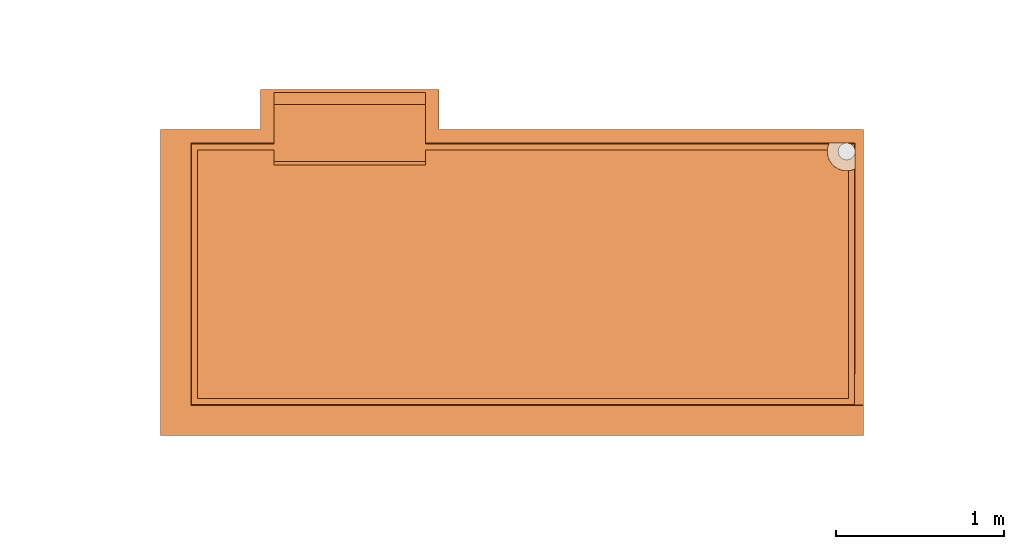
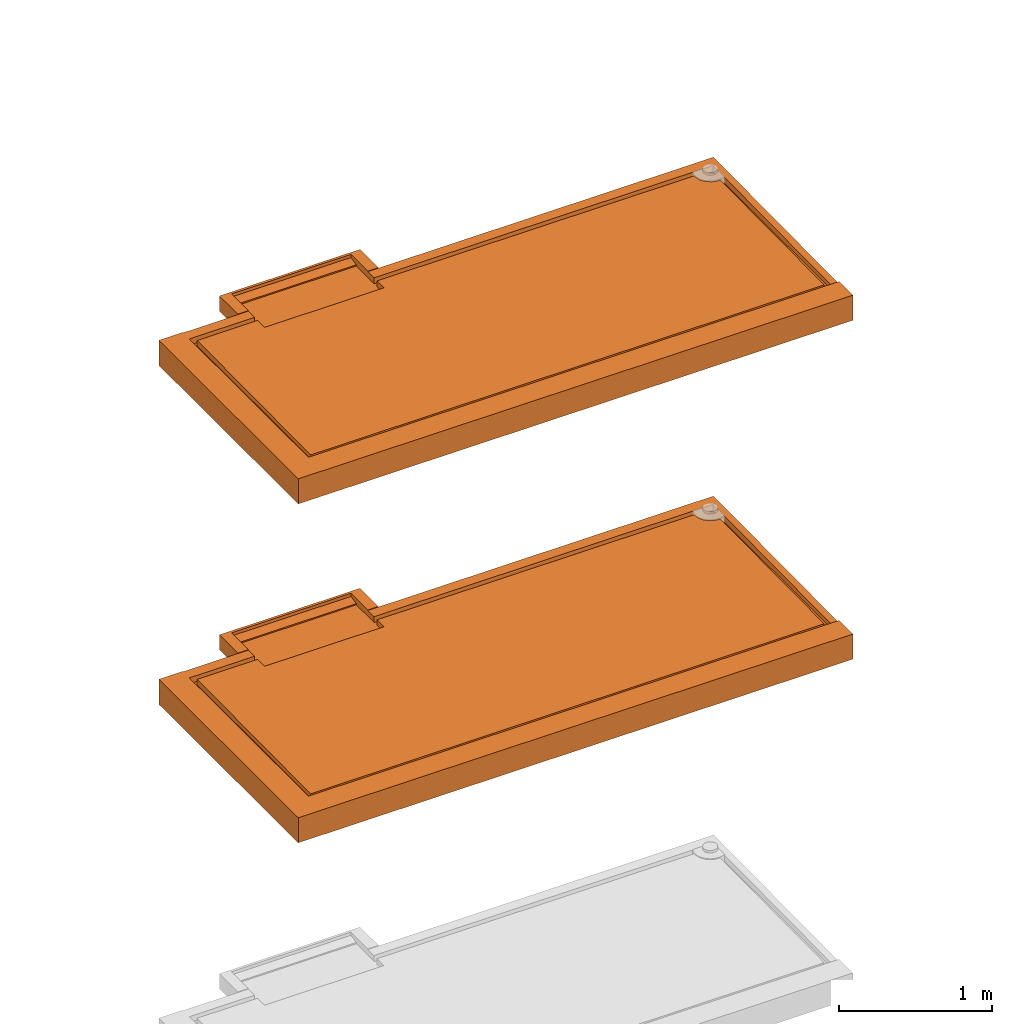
# One storey, part 17 of 31: 2 proxies, 2 elements without a shape of their own.
"""IFC2X3 building model written with IfcOpenShell, lengths in centimetres."""

import ifcopenshell
import ifcopenshell.guid

model = None  # the IFC model being written
_history = None  # IfcOwnerHistory: only IFC2X3 demands one
_inside = {}  # id of a spatial element -> (the spatial element, [elements in it])
_under = {}  # id of a project, library or spatial element -> (it, [spatial elements below it])
_declared = {}  # id of a project -> (the project, [libraries it declares])
_typed = {}  # id of a type object -> (the type object, [elements of that type])
_made_of = {}  # id of a material, layer set ... -> (it, [elements and type objects made of it])


def new_model(schema):
    """Start an empty IFC model of exactly this schema.

    Asked for "IFC4X3", IfcOpenShell would pick the latest addendum, in which some entities
    have other attributes; the version numbers below select the first issue.
    IFC2X3 requires an IfcOwnerHistory on every rooted entity: one is made here for all.
    """
    global model, _history
    if schema == "IFC4X3":
        model = ifcopenshell.file(schema_version=(4, 3, 0, 0))
    else:
        model = ifcopenshell.file(schema=schema)
    _inside.clear()
    _under.clear()
    _declared.clear()
    _typed.clear()
    _made_of.clear()
    _history = None
    if model.schema == "IFC2X3":
        org = make("IfcOrganization", Name="unknown")
        user = make(
            "IfcPersonAndOrganization",
            ThePerson=make("IfcPerson", FamilyName="unknown"),
            TheOrganization=org,
        )
        app = make(
            "IfcApplication",
            ApplicationDeveloper=org,
            Version="unknown",
            ApplicationFullName="unknown",
            ApplicationIdentifier="unknown",
        )
        _history = make(
            "IfcOwnerHistory",
            OwningUser=user,
            OwningApplication=app,
            ChangeAction="ADDED",
            CreationDate=0,
        )
    return model


def make(cls, **values):
    """One entity of the class cls with the attributes given. An attribute that is None is left unset."""
    return model.create_entity(
        cls, **{name: value for name, value in values.items() if value is not None}
    )


def entity(cls, *values):
    """Any entity or typed value of the class cls, its attributes in the order of the schema. None: left unset."""
    e = model.create_entity(cls)
    for i, value in enumerate(values):
        if value is not None:
            e[i] = value
    return e


def rooted(cls, **values):
    """An entity with a GlobalId (a new one), such as an element, a storey or a relation."""
    return make(cls, GlobalId=ifcopenshell.guid.new(), OwnerHistory=_history, **values)


def si_unit(unit_type, name, prefix=None):
    """IfcSIUnit, for example si_unit("LENGTHUNIT", "METRE", prefix="MILLI")."""
    return make("IfcSIUnit", UnitType=unit_type, Prefix=prefix, Name=name)


def converted_unit(unit_type, name, factor, base, dimensions=None, offset=None):
    """IfcConversionBasedUnit, such as the inch: factor (a typed value) times the base unit."""
    return make(
        "IfcConversionBasedUnit"
        if offset is None
        else "IfcConversionBasedUnitWithOffset",
        ConversionOffset=offset,
        Dimensions=None
        if dimensions is None
        else entity("IfcDimensionalExponents", *dimensions),
        UnitType=unit_type,
        Name=name,
        ConversionFactor=make(
            "IfcMeasureWithUnit", ValueComponent=factor, UnitComponent=base
        ),
    )


def derived_unit(unit_type, elements):
    """IfcDerivedUnit: a product of units, each with its exponent."""
    return make(
        "IfcDerivedUnit",
        Elements=[
            make("IfcDerivedUnitElement", Unit=unit, Exponent=power)
            for unit, power in elements
        ],
        UnitType=unit_type,
    )


def assignment(units):
    """IfcUnitAssignment: the units of a project."""
    return None if units is None else make("IfcUnitAssignment", Units=units)


def point(xyz):
    """IfcCartesianPoint."""
    return None if xyz is None else make("IfcCartesianPoint", Coordinates=xyz)


def direction(xyz):
    """IfcDirection."""
    return None if xyz is None else make("IfcDirection", DirectionRatios=xyz)


def frame(location, z_axis=None, x_axis=None):
    """IfcAxis2Placement3D, a coordinate frame: its origin and axes. An axis left out is left unset."""
    return make(
        "IfcAxis2Placement3D",
        Location=point(location),
        Axis=direction(z_axis),
        RefDirection=direction(x_axis),
    )


def origin():
    """The frame at (0, 0, 0) with its axes left unset."""
    return frame((0.0, 0.0, 0.0))


def place(relative_to, where):
    """IfcLocalPlacement: puts the frame where relative to a parent placement (None: the world)."""
    return make(
        "IfcLocalPlacement", PlacementRelTo=relative_to, RelativePlacement=where
    )


def context(
    kind, dimensions, precision=None, world=None, true_north=None, identifier=None
):
    """IfcGeometricRepresentationContext, for example the 3D "Model" context."""
    return make(
        "IfcGeometricRepresentationContext",
        ContextIdentifier=identifier,
        ContextType=kind,
        CoordinateSpaceDimension=dimensions,
        Precision=precision,
        WorldCoordinateSystem=world,
        TrueNorth=true_north,
    )


def subcontext(parent, identifier, kind, view, scale=None):
    """IfcGeometricRepresentationSubContext, for example "Body" below "Model"."""
    return make(
        "IfcGeometricRepresentationSubContext",
        ContextIdentifier=identifier,
        ContextType=kind,
        ParentContext=parent,
        TargetScale=scale,
        TargetView=view,
    )


def project(units=None, contexts=None):
    """IfcProject with its units and contexts."""
    return rooted(
        "IfcProject",
        Name="project",
        RepresentationContexts=contexts,
        UnitsInContext=assignment(units),
    )


def spatial(cls, under=None, at=None, **own):
    """A site, building, storey or space (cls), placed at a placement, below another one or the project."""
    s = rooted(cls, ObjectPlacement=at, **own)
    if under is not None:
        _under.setdefault(under.id(), (under, []))[1].append(s)
    return s


def faces_of(points, faces, orient=None, outer=None):
    """IfcFace entities. A face is a list of loops; a loop is a list of indices into points, from 0.

    orient and outer hold one flag for each loop. By default every Orientation is true, the
    first loop of a face is its IfcFaceOuterBound and the others are IfcFaceBound.
    """
    made = []
    for i, loops in enumerate(faces):
        bounds = []
        for j, loop in enumerate(loops):
            is_outer = j == 0 if outer is None else outer[i][j]
            bounds.append(
                make(
                    "IfcFaceOuterBound" if is_outer else "IfcFaceBound",
                    Bound=make("IfcPolyLoop", Polygon=[points[k] for k in loop]),
                    Orientation=True if orient is None else orient[i][j],
                )
            )
        made.append(make("IfcFace", Bounds=bounds))
    return made


def faceted_brep(points, faces, orient=None, outer=None, voids=None):
    """IfcFacetedBrep: a solid bounded by flat faces; with voids (closed shells), ...WithVoids."""
    shared = [point(p) for p in points]
    hull = make("IfcClosedShell", CfsFaces=faces_of(shared, faces, orient, outer))
    if voids is None:
        return make("IfcFacetedBrep", Outer=hull)
    return make(
        "IfcFacetedBrepWithVoids",
        Outer=hull,
        Voids=[
            make(cls, CfsFaces=faces_of(shared, fs, o, b)) for cls, fs, o, b in voids
        ],
    )


def shape(context_of_items, identifier, shape_type, items):
    """IfcShapeRepresentation: the items that make up one representation, for example the "Body"."""
    return make(
        "IfcShapeRepresentation",
        ContextOfItems=context_of_items,
        RepresentationIdentifier=identifier,
        RepresentationType=shape_type,
        Items=items,
    )


def source(mapping_origin, context_of_items, identifier, shape_type, items):
    """IfcRepresentationMap: a shape defined once, which mapped items show again and again."""
    return make(
        "IfcRepresentationMap",
        MappingOrigin=mapping_origin,
        MappedRepresentation=shape(context_of_items, identifier, shape_type, items),
    )


def transform(
    local_origin,
    x_axis=None,
    y_axis=None,
    z_axis=None,
    scale=None,
    scale2=None,
    scale3=None,
    uniform=True,
):
    """IfcCartesianTransformationOperator3D, or its non-uniform kind. x_axis, y_axis, z_axis: its Axis1, 2, 3."""
    if uniform:
        return make(
            "IfcCartesianTransformationOperator3D",
            Axis1=direction(x_axis),
            Axis2=direction(y_axis),
            LocalOrigin=point(local_origin),
            Scale=scale,
            Axis3=direction(z_axis),
        )
    return make(
        "IfcCartesianTransformationOperator3DnonUniform",
        Axis1=direction(x_axis),
        Axis2=direction(y_axis),
        LocalOrigin=point(local_origin),
        Scale=scale,
        Axis3=direction(z_axis),
        Scale2=scale2,
        Scale3=scale3,
    )


def mapped(mapping_source, mapping_target):
    """IfcMappedItem: shows the shape of a source again, moved by a transform."""
    return make(
        "IfcMappedItem", MappingSource=mapping_source, MappingTarget=mapping_target
    )


def material(Name=None, Category=None):
    """IfcMaterial."""
    return make("IfcMaterial", Name=Name, Category=Category)


def made_of(thing, what):
    """Note that an element or type object is made of a material, layer set ...; save() writes the relation."""
    if what is not None:
        _made_of.setdefault(what.id(), (what, []))[1].append(thing)
    return thing


def type_object(cls, material=None, **own):
    """A type object (cls), such as IfcWallType, which elements share."""
    return made_of(rooted(cls, **own), material)


def type_shapes(of_type, sources):
    """Give a type object the sources (RepresentationMaps) that its elements show as mapped items."""
    of_type.RepresentationMaps = sources


def element(
    cls,
    number,
    at=None,
    inside=None,
    cuts=None,
    type_object=None,
    material=None,
    context=None,
    identifier="Body",
    shape_type=None,
    held_by="IfcProductDefinitionShape",
    body=None,
    shapes=None,
    **own,
):
    """One element of the class cls, such as IfcWall. Its Tag is "e" and its number.

    at: its placement. inside: the storey or other place that contains it. cuts: it is an
    opening in that element (IfcRelVoidsElement). A single representation is given by context,
    identifier, shape_type and body (its items); several are given by shapes. held_by: the class
    of the entity that holds the representations. save() writes the other relations.
    """
    e = rooted(cls, Tag="e%d" % number, ObjectPlacement=at, **own)
    if body is not None:
        shapes = [shape(context, identifier, shape_type, body)]
    if shapes is not None:
        e.Representation = make(held_by, Representations=shapes)
    if inside is not None:
        _inside.setdefault(inside.id(), (inside, []))[1].append(e)
    if cuts is not None:
        rooted(
            "IfcRelVoidsElement", RelatingBuildingElement=cuts, RelatedOpeningElement=e
        )
    if type_object is not None:
        _typed.setdefault(type_object.id(), (type_object, []))[1].append(e)
    return made_of(e, material)


def aggregate(whole, parts):
    """IfcRelAggregates: a whole, such as a stair, and the parts it consists of."""
    return rooted("IfcRelAggregates", RelatingObject=whole, RelatedObjects=parts)


def save(model, path):
    """Write the relations noted so far, then the file.

    IfcRelAggregates (storeys below a building ...), IfcRelContainedInSpatialStructure (elements
    in a storey), IfcRelDefinesByType, IfcRelAssociatesMaterial and IfcRelDeclares: one each for
    every whole, place, type object, material and project.
    """
    for whole, parts in _under.values():
        aggregate(whole, parts)
    for where, things in _inside.values():
        rooted(
            "IfcRelContainedInSpatialStructure",
            RelatedElements=things,
            RelatingStructure=where,
        )
    for kind, things in _typed.values():
        rooted("IfcRelDefinesByType", RelatedObjects=things, RelatingType=kind)
    for what, things in _made_of.values():
        rooted("IfcRelAssociatesMaterial", RelatedObjects=things, RelatingMaterial=what)
    for by, libraries in _declared.values():
        rooted("IfcRelDeclares", RelatingContext=by, RelatedDefinitions=libraries)
    model.write(path)


model = new_model("IFC2X3")

# Units and contexts
model_context = context("Model", 3, precision=0.001, world=origin(), true_north=direction((6.12303176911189e-17, 1.0)))
body_context = subcontext(model_context, "Body", "Model", "MODEL_VIEW")
ifc_project = project(units=[si_unit("LENGTHUNIT", "METRE", prefix="CENTI"), si_unit("AREAUNIT", "SQUARE_METRE"), si_unit("VOLUMEUNIT", "CUBIC_METRE"), converted_unit("PLANEANGLEUNIT", "DEGREE", entity("IfcRatioMeasure", 0.0174532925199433), si_unit("PLANEANGLEUNIT", "RADIAN"), dimensions=[0, 0, 0, 0, 0, 0, 0]), si_unit("MASSUNIT", "GRAM", prefix="KILO"), derived_unit("MASSDENSITYUNIT", [(si_unit("MASSUNIT", "GRAM", prefix="KILO"), 1), (si_unit("LENGTHUNIT", "METRE"), -3)]), si_unit("TIMEUNIT", "SECOND"), si_unit("FREQUENCYUNIT", "HERTZ"), si_unit("THERMODYNAMICTEMPERATUREUNIT", "DEGREE_CELSIUS"), derived_unit("THERMALTRANSMITTANCEUNIT", [(si_unit("MASSUNIT", "GRAM", prefix="KILO"), 1), (si_unit("THERMODYNAMICTEMPERATUREUNIT", "KELVIN"), -1), (si_unit("TIMEUNIT", "SECOND"), -3)]), derived_unit("VOLUMETRICFLOWRATEUNIT", [(si_unit("LENGTHUNIT", "METRE"), 3), (si_unit("TIMEUNIT", "SECOND"), -1)]), si_unit("ELECTRICCURRENTUNIT", "AMPERE"), si_unit("ELECTRICVOLTAGEUNIT", "VOLT"), si_unit("POWERUNIT", "WATT"), si_unit("FORCEUNIT", "NEWTON"), si_unit("ILLUMINANCEUNIT", "LUX"), si_unit("LUMINOUSFLUXUNIT", "LUMEN"), si_unit("LUMINOUSINTENSITYUNIT", "CANDELA"), derived_unit("USERDEFINED", [(si_unit("MASSUNIT", "GRAM", prefix="KILO"), -1), (si_unit("LENGTHUNIT", "METRE"), -2), (si_unit("TIMEUNIT", "SECOND"), 3), (si_unit("LUMINOUSFLUXUNIT", "LUMEN"), 1)]), derived_unit("LINEARVELOCITYUNIT", [(si_unit("LENGTHUNIT", "METRE"), 1), (si_unit("TIMEUNIT", "SECOND"), -1)]), si_unit("PRESSUREUNIT", "PASCAL"), derived_unit("USERDEFINED", [(si_unit("LENGTHUNIT", "METRE"), -2), (si_unit("MASSUNIT", "GRAM", prefix="KILO"), 1), (si_unit("TIMEUNIT", "SECOND"), -2)])], contexts=[model_context])

# Site, building, storey
site_placement = place(None, origin())
site = spatial("IfcSite", under=ifc_project, at=site_placement, Name="Default", CompositionType="ELEMENT")
building_placement = place(site_placement, origin())
building = spatial("IfcBuilding", under=site, at=building_placement, Name="CAGE 03", CompositionType="ELEMENT")
storey_placement = place(building_placement, frame((0.0, 0.0, -400.0)))
storey = spatial("IfcBuildingStorey", under=building, at=storey_placement, Name="±0.00", CompositionType="ELEMENT", Elevation=-400.0)

# Assembly, proxy
assembly_1_placement = place(storey_placement, origin())
assembly_1 = element("IfcElementAssembly", 1, at=assembly_1_placement, inside=storey, Name="Assemblage Modèles génériques:BALCON TYPE 05", ObjectType="Assemblage Modèles génériques:BALCON TYPE 05", AssemblyPlace="NOTDEFINED", PredefinedType="USERDEFINED")
ifc_material = material(Name="Béton, panneaux préfa 30/37")
building_element_proxy_type_1 = type_object("IfcBuildingElementProxyType", Name="balcon préfa type 05", PredefinedType="NOTDEFINED", material=ifc_material)
shared_shape_1 = source(origin(), body_context, "Body", "Brep", [
    faceted_brep([(18.4374433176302, 173.562556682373, 15.0), (18.4374433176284, 18.437443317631, 15.0), (412.562556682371, 18.4374433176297, 15.0), (412.562556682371, 158.443813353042, 15.0), (410.817467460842, 157.850476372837, 15.0), (409.0, 157.543560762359, 15.0), (409.0, 22.0, 15.0), (22.0, 22.0, 15.0), (22.0, 170.0, 15.0), (67.5000000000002, 170.0, 15.0), (67.5000000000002, 163.0, 15.0), (157.500000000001, 163.0, 15.0), (157.500000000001, 170.0, 15.0), (396.543560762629, 170.0, 15.0), (396.850476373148, 171.817467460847, 15.0), (397.443813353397, 173.562556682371, 15.0), (157.500000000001, 173.562556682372, 15.0), (157.500000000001, 197.0, 15.0), (67.5000000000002, 197.0, 15.0), (67.5000000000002, 173.562556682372, 15.0), (410.045257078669, 173.562556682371, 15.0), (411.081635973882, 172.937450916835, 15.0), (411.937450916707, 172.081635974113, 15.0), (412.562556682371, 171.045257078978, 15.0), (412.562556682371, 173.562556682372, 15.0), (59.5000000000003, 182.0, 20.0), (67.5000000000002, 182.0, 20.0), (67.5000000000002, 204.0, 20.0), (157.500000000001, 204.0, 20.0), (157.500000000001, 182.0, 20.0), (165.5, 182.0, 20.0), (165.5, 198.0, 20.0), (165.5, 206.0, 20.0), (59.5000000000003, 206.0, 20.0), (59.5000000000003, 198.0, 20.0), (18.0, 18.0, 20.0), (18.0, 180.0, 20.0), (18.0, 182.0, 20.0), (0.0, 182.0, 20.0), (0.0, 180.0, 20.0), (0.0, 0.0, 20.0), (418.0, 0.0, 20.0), (418.0, 18.0, 20.0), (59.5000000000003, 206.0, 8.0), (165.5, 206.0, 8.0), (0.0, 0.0, 0.0), (418.0, 0.0, 0.0), (67.5000000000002, 163.0, 16.9198129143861), (67.5000000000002, 161.026803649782, 16.9000788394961), (157.500000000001, 161.026803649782, 16.9000788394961), (157.500000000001, 163.0, 16.9198129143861), (418.0, 180.0, 0.0), (418.0, 182.0, 0.0), (418.0, 182.0, 19.6099582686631), (418.0, 180.0, 19.5899561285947), (418.0, 18.177465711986, 17.9715576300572), (412.822534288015, 18.177465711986, 17.9715576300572), (18.0411600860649, 173.958839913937, 19.5295380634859), (18.0358741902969, 180.0, 19.5899561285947), (18.0341242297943, 182.0, 19.6099582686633), (0.0, 182.0, 0.0), (0.0, 180.0, 0.0), (67.500000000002, 173.958839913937, 19.5295380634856), (397.487940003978, 173.662054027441, 16.13725985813), (397.532066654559, 173.761551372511, 17.2745197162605), (397.578068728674, 173.860195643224, 18.4020288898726), (397.601069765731, 173.90951777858, 18.9657834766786), (397.61257028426, 173.934178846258, 19.2476607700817), (397.624070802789, 173.958839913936, 19.5295380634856), (157.500000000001, 173.958839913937, 19.5295380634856), (412.958839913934, 173.958839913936, 19.5295380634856), (408.640239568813, 173.958839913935, 19.5295380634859), (409.001449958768, 173.898683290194, 18.841944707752), (409.357288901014, 173.812251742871, 17.8540276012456), (409.705847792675, 173.700008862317, 16.5710856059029), (4.0, 4.0, 1.46630765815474), (4.0, 4.0, 0.0), (414.0, 4.0, 0.0), (414.0, 4.0, 1.46630765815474), (165.5, 182.0, 19.6099582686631), (165.5, 182.0, 8.0), (165.5, 198.0, 8.0), (67.5000000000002, 204.0, 17.4999999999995), (157.500000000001, 204.0, 17.4999999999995), (59.5000000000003, 198.0, 8.0), (59.5000000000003, 182.0, 8.0), (59.5000000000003, 182.0, 19.6099582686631), (415.0, 182.0, 0.0), (415.0, 182.0, 1.0), (414.0, 182.0, 1.46630765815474), (414.0, 182.0, 0.0), (18.0, 182.0, 0.0), (4.0, 182.0, 0.0), (4.0, 182.0, 1.46630765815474), (3.0, 182.0, 1.0), (3.0, 182.0, 0.0), (67.5000000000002, 180.0, 19.5899561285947), (67.5000000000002, 182.0, 19.6099582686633), (22.0, 22.0, 18.0097870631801), (409.0, 22.0, 18.0097870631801), (409.0, 157.543560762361, 19.3653677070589), (406.142764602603, 157.650961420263, 19.3664418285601), (403.400338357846, 158.459928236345, 19.3745323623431), (400.942250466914, 159.920453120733, 19.3891391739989), (398.920453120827, 161.942250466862, 19.4093593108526), (397.459928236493, 164.400338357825, 19.4339428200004), (396.650961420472, 167.1427646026, 19.4613700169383), (396.543560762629, 170.0, 19.4899454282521), (157.500000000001, 170.0, 19.4899454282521), (157.500000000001, 161.001802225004, 19.399953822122), (67.5000000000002, 161.001802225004, 19.399953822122), (67.5000000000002, 170.0, 19.4899454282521), (22.0, 170.0, 19.4899454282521), (157.500000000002, 182.0, 19.6099582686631), (157.500000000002, 180.0, 19.5899561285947), (397.633936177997, 173.979429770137, 19.5297439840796), (397.643842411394, 174.0, 19.5299497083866), (408.0, 174.0, 19.5299497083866), (408.320780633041, 173.989699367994, 19.529846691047), (412.955086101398, 169.668671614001, 19.4866317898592), (412.98875888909, 169.335089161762, 19.4832956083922), (413.0, 169.0, 19.4799443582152), (413.0, 158.643842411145, 19.3763717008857), (412.972725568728, 158.630718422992, 19.3762404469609), (412.945416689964, 158.617666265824, 19.376109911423), (157.500000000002, 197.0, 15.9713250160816), (67.5000000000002, 197.0, 15.9713250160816), (415.0, 3.0, 1.0), (3.0, 3.0, 1.0), (4.0, 180.0, 0.0), (403.669872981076, 166.49999999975, 0.0), (403.170370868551, 167.705904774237, 0.0), (403.0, 169.0, 0.0), (403.170370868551, 170.294095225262, 0.0), (403.669872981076, 171.49999999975, 0.0), (404.464466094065, 172.535533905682, 0.0), (405.499999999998, 173.330127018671, 0.0), (406.705904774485, 173.829629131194, 0.0), (408.0, 174.0, 0.0), (414.0, 180.0, 0.0), (409.29409522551, 173.829629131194, 0.0), (410.499999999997, 173.330127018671, 0.0), (411.535533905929, 172.535533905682, 0.0), (412.330127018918, 171.49999999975, 0.0), (412.829629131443, 170.294095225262, 0.0), (413.0, 169.0, 0.0), (404.464466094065, 165.464466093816, 0.0), (405.499999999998, 164.669872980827, 0.0), (406.705904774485, 164.170370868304, 0.0), (412.829629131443, 167.705904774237, 0.0), (412.330127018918, 166.49999999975, 0.0), (411.535533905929, 165.464466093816, 0.0), (410.499999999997, 164.669872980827, 0.0), (409.29409522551, 164.170370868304, 0.0), (408.0, 164.0, 0.0), (3.0, 180.0, 0.0), (3.0, 3.0, 0.0), (415.0, 3.0, 0.0), (415.0, 180.0, 0.0), (415.0, 180.0, 1.0), (414.0, 180.0, 1.46630765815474), (3.0, 180.0, 1.0), (4.0, 180.0, 1.46630765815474), (412.697557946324, 170.712585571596, 16.5430715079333), (412.808339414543, 170.371084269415, 17.8093094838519), (412.894329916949, 170.022513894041, 18.7921854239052), (412.897757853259, 158.595497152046, 18.8313669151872), (412.850099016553, 158.573328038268, 18.2866239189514), (412.754781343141, 158.528989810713, 17.19713792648), (396.735578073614, 171.315771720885, 7.69999999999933), (396.511272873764, 168.490933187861, 7.69999999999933), (396.984546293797, 165.697004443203, 7.69999999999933), (398.126661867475, 163.103628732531, 7.69999999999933), (399.868272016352, 160.868272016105, 7.69999999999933), (402.103628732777, 159.126661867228, 7.69999999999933), (404.697004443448, 157.98454629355, 7.69999999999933), (407.490933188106, 157.511272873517, 7.69999999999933), (410.315771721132, 157.735578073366, 7.69999999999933), (413.0, 158.643842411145, 7.69999999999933), (413.0, 169.0, 7.69999999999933), (412.829629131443, 167.705904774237, 7.69999999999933), (412.330127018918, 166.49999999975, 7.69999999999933), (411.535533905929, 165.464466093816, 7.69999999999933), (410.499999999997, 164.669872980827, 7.69999999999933), (409.29409522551, 164.170370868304, 7.69999999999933), (408.0, 164.0, 7.69999999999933), (406.705904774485, 164.170370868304, 7.69999999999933), (405.499999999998, 164.669872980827, 7.69999999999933), (404.464466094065, 165.464466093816, 7.69999999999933), (403.669872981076, 166.49999999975, 7.69999999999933), (403.170370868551, 167.705904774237, 7.69999999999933), (403.0, 169.0, 7.69999999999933), (403.170370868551, 170.294095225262, 7.69999999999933), (403.669872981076, 171.49999999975, 7.69999999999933), (404.464466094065, 172.535533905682, 7.69999999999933), (405.499999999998, 173.330127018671, 7.69999999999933), (406.705904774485, 173.829629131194, 7.69999999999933), (408.0, 174.0, 7.69999999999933), (397.643842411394, 174.0, 7.69999999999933), (397.643842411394, 174.0, 19.1602618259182), (397.643842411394, 174.0, 18.7905808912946), (397.643842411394, 174.0, 18.0512051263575), (397.643842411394, 174.0, 16.5724674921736), (397.643842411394, 174.0, 15.0937229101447), (397.643842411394, 174.0, 13.6149783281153), (413.0, 158.643842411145, 18.6465984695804), (413.0, 158.643842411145, 17.9168252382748), (413.0, 158.643842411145, 13.5381858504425), (413.0, 158.643842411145, 16.4572787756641), (413.0, 158.643842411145, 14.9977323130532)], [[[0, 1, 2, 3, 4, 5, 6, 7, 8, 9, 10, 11, 12, 13, 14, 15, 16, 17, 18, 19]], [[20, 21, 22, 23, 24]], [[25, 26, 27, 28, 29, 30, 31, 32, 33, 34]], [[35, 36, 37, 38, 39, 40, 41, 42]], [[43, 33, 32, 44]], [[40, 45, 46, 41]], [[47, 48, 49, 50]], [[10, 47, 50, 11]], [[51, 52, 53, 54, 55, 42, 41, 46]], [[42, 55, 56, 2, 1, 35]], [[1, 0, 57, 58, 59, 37, 36, 35]], [[45, 40, 39, 38, 60, 61]], [[62, 57, 0, 19]], [[15, 63, 64, 65, 66, 67, 68, 69, 16]], [[70, 71, 72, 73, 74, 20, 24]], [[75, 76, 77, 78]], [[31, 30, 79, 80, 81, 44, 32]], [[27, 82, 83, 28]], [[84, 43, 44, 81, 80, 85]], [[38, 37, 59, 86, 85, 80, 79, 53, 52, 87, 88, 89, 90, 91, 92, 93, 94, 95, 60]], [[58, 57, 62, 96, 97, 86, 59]], [[98, 99, 100, 101, 102, 103, 104, 105, 106, 107, 108, 109, 110, 111, 112]], [[79, 113, 114, 69, 68, 115, 116, 117, 118, 71, 70, 119, 120, 121, 122, 123, 124, 56, 55, 54, 53]], [[125, 17, 16, 69, 114, 113, 29, 28, 83]], [[108, 12, 11, 50, 49, 109]], [[82, 27, 26, 97, 96, 62, 19, 18, 126]], [[111, 110, 48, 47, 10, 9]], [[75, 78, 127, 128]], [[92, 91, 129]], [[76, 129, 91]], [[91, 130, 76]], [[91, 131, 130]], [[131, 91, 132]], [[132, 91, 133]], [[133, 91, 134]], [[135, 134, 91]], [[90, 135, 91]], [[90, 136, 135]], [[90, 137, 136]], [[138, 137, 90]], [[139, 138, 90]], [[140, 138, 139]], [[140, 139, 141]], [[142, 141, 139]], [[139, 143, 142]], [[144, 143, 139]], [[139, 145, 144]], [[145, 139, 77]], [[76, 130, 77]], [[77, 130, 146]], [[77, 146, 147]], [[77, 147, 148]], [[149, 145, 77]], [[77, 150, 149]], [[150, 77, 151]], [[152, 151, 77]], [[152, 77, 153]], [[154, 153, 77]], [[154, 77, 148]], [[60, 95, 155, 156, 157, 158, 87, 52, 51, 46, 45, 61]], [[48, 110, 109, 49]], [[8, 7, 98, 112]], [[9, 8, 112, 111]], [[13, 12, 108, 107]], [[7, 6, 99, 98]], [[128, 127, 157, 156]], [[82, 126, 125, 83]], [[126, 18, 17, 125]], [[30, 29, 113, 79]], [[26, 25, 86, 97]], [[87, 158, 157, 127, 159, 88]], [[160, 78, 77, 139, 90, 89]], [[159, 127, 78, 160, 89, 88]], [[156, 155, 95, 94, 161, 128]], [[129, 76, 75, 162, 93, 92]], [[75, 128, 161, 94, 93, 162]], [[99, 6, 5, 100]], [[23, 163, 164, 165, 119, 70, 24]], [[2, 56, 124, 166, 167, 168, 3]], [[34, 33, 43, 84, 85, 86, 25]], [[169, 170, 171, 172, 173, 174, 175, 176, 177, 178, 179, 180, 181, 182, 183, 184, 185, 186, 187, 188, 189, 190, 191, 192, 193, 194, 195, 196, 197, 198]], [[117, 116, 199, 200, 201, 202, 203, 204, 198, 197]], [[14, 169, 198]], [[65, 64, 201]], [[14, 204, 15]], [[14, 13, 169]], [[63, 202, 64]], [[171, 170, 106]], [[170, 13, 106]], [[169, 13, 170]], [[105, 172, 171]], [[205, 206, 167]], [[122, 205, 166]], [[200, 199, 66]], [[200, 65, 201]], [[204, 14, 198]], [[66, 65, 200]], [[105, 171, 106]], [[67, 66, 199]], [[115, 68, 67]], [[106, 13, 107]], [[105, 104, 172]], [[67, 199, 115]], [[104, 173, 172]], [[174, 102, 175]], [[173, 103, 174]], [[176, 175, 101]], [[177, 207, 178]], [[202, 201, 64]], [[177, 5, 4]], [[207, 177, 4]], [[176, 5, 177]], [[101, 5, 176]], [[15, 203, 63]], [[100, 5, 101]], [[166, 123, 122]], [[102, 174, 103]], [[168, 208, 3]], [[101, 175, 102]], [[3, 208, 209, 207]], [[4, 3, 207]], [[206, 208, 168]], [[206, 168, 167]], [[167, 166, 205]], [[166, 124, 123]], [[116, 115, 199]], [[15, 204, 203]], [[202, 63, 203]], [[104, 103, 173]], [[179, 178, 207, 209, 208, 206, 205, 122, 121]], [[136, 137, 196, 195]], [[136, 195, 194, 135]], [[133, 134, 193, 192]], [[194, 193, 134, 135]], [[132, 133, 192, 191]], [[138, 197, 196, 137]], [[130, 131, 190, 189]], [[130, 189, 188, 146]], [[148, 147, 187, 186]], [[188, 187, 147, 146]], [[154, 148, 186, 185]], [[191, 190, 131, 132]], [[153, 184, 183, 152]], [[154, 185, 184, 153]], [[149, 150, 181, 180]], [[151, 152, 183, 182]], [[151, 182, 181, 150]], [[180, 179, 145, 149]], [[119, 165, 179]], [[179, 165, 144]], [[121, 120, 179]], [[119, 179, 120]], [[144, 145, 179]], [[23, 143, 144]], [[143, 23, 22]], [[22, 142, 143]], [[163, 23, 144]], [[197, 138, 140]], [[141, 142, 21]], [[141, 20, 140]], [[22, 21, 142]], [[140, 72, 197]], [[141, 21, 20]], [[144, 164, 163]], [[20, 74, 140]], [[72, 140, 73]], [[72, 71, 197]], [[73, 140, 74]], [[71, 118, 197]], [[197, 118, 117]], [[165, 164, 144]]]),
])
type_shapes(building_element_proxy_type_1, [shared_shape_1])
proxy_1_placement = place(assembly_1_placement, frame((9284.36582014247, 3796.66066607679, 1530.0)))
proxy_1 = element("IfcBuildingElementProxy", 2, at=proxy_1_placement, type_object=building_element_proxy_type_1, material=ifc_material, Name="BY_STR_Balcon_préfa_05:balcon préfa type 05", ObjectType="balcon préfa type 05", context=body_context, shape_type="MappedRepresentation", body=[
    mapped(shared_shape_1, transform((0.0, 0.0, 0.0), scale=1.0)),
])
aggregate(assembly_1, [proxy_1])

assembly_2_placement = place(storey_placement, origin())
assembly_2 = element("IfcElementAssembly", 3, at=assembly_2_placement, inside=storey, Name="Assemblage Modèles génériques:BALCON TYPE 05", ObjectType="Assemblage Modèles génériques:BALCON TYPE 05", AssemblyPlace="NOTDEFINED", PredefinedType="USERDEFINED")
building_element_proxy_type_2 = type_object("IfcBuildingElementProxyType", Name="balcon préfa type 05", PredefinedType="NOTDEFINED", material=ifc_material)
shared_shape_2 = source(origin(), body_context, "Body", "Brep", [
    faceted_brep([(18.4374433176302, 173.562556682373, 15.0), (18.4374433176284, 18.437443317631, 15.0), (412.562556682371, 18.4374433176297, 15.0), (412.562556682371, 158.443813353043, 15.0), (410.817467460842, 157.850476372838, 15.0), (409.0, 157.543560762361, 15.0), (409.0, 22.0, 15.0), (22.0, 22.0, 15.0), (22.0, 170.0, 15.0), (67.5000000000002, 170.0, 15.0), (67.5000000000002, 163.0, 15.0), (157.500000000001, 163.0, 15.0), (157.500000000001, 170.0, 15.0), (396.543560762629, 170.0, 15.0), (396.850476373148, 171.817467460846, 15.0), (397.443813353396, 173.562556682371, 15.0), (157.500000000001, 173.562556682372, 15.0), (157.500000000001, 197.0, 15.0), (67.5000000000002, 197.0, 15.0), (67.5000000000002, 173.562556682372, 15.0), (410.045257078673, 173.562556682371, 15.0), (411.081635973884, 172.937450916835, 15.0), (411.937450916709, 172.081635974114, 15.0), (412.562556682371, 171.045257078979, 15.0), (412.562556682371, 173.562556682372, 15.0), (59.5000000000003, 182.0, 20.0), (67.5000000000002, 182.0, 20.0), (67.5000000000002, 204.0, 20.0), (157.500000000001, 204.0, 20.0), (157.500000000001, 182.0, 20.0), (165.5, 182.0, 20.0), (165.5, 198.0, 20.0), (165.5, 206.0, 20.0), (59.5000000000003, 206.0, 20.0), (59.5000000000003, 198.0, 20.0), (18.0, 18.0, 20.0), (18.0, 180.0, 20.0), (18.0, 182.0, 20.0), (0.0, 182.0, 20.0), (0.0, 180.0, 20.0), (0.0, 0.0, 20.0), (418.0, 0.0, 20.0), (418.0, 18.0, 20.0), (59.5000000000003, 206.0, 8.0), (165.5, 206.0, 8.0), (0.0, 0.0, 0.0), (418.0, 0.0, 0.0), (67.5000000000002, 163.0, 16.9198129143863), (67.5000000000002, 161.026803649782, 16.9000788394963), (157.500000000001, 161.026803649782, 16.9000788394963), (157.500000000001, 163.0, 16.9198129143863), (418.0, 180.0, 0.0), (418.0, 182.0, 0.0), (418.0, 182.0, 19.6099582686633), (418.0, 180.0, 19.589956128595), (418.0, 18.177465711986, 17.9715576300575), (412.822534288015, 18.177465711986, 17.9715576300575), (18.0411600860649, 173.958839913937, 19.5295380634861), (18.0358741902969, 180.0, 19.589956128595), (18.0341242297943, 182.0, 19.6099582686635), (0.0, 182.0, 0.0), (0.0, 180.0, 0.0), (67.500000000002, 173.958839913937, 19.5295380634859), (397.487940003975, 173.662054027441, 16.1372598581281), (397.532066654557, 173.761551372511, 17.2745197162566), (397.578068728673, 173.860195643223, 18.4020288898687), (397.601069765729, 173.90951777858, 18.9657834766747), (397.61257028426, 173.934178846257, 19.2476607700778), (397.624070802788, 173.958839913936, 19.5295380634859), (157.500000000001, 173.958839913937, 19.5295380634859), (412.958839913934, 173.958839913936, 19.5295380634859), (408.640239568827, 173.958839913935, 19.5295380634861), (409.001449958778, 173.898683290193, 18.8419447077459), (409.357288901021, 173.81225174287, 17.854027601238), (409.70584779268, 173.700008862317, 16.5710856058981), (4.0, 4.0, 1.46630765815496), (4.0, 4.0, 0.0), (414.0, 4.0, 0.0), (414.0, 4.0, 1.46630765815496), (165.5, 182.0, 19.6099582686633), (165.5, 182.0, 8.0), (165.5, 198.0, 8.0), (67.5000000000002, 204.0, 17.4999999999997), (157.500000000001, 204.0, 17.4999999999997), (59.5000000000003, 198.0, 8.0), (59.5000000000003, 182.0, 8.0), (59.5000000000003, 182.0, 19.6099582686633), (415.0, 182.0, 0.0), (415.0, 182.0, 1.0), (414.0, 182.0, 1.46630765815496), (414.0, 182.0, 0.0), (18.0, 182.0, 0.0), (4.0, 182.0, 0.0), (4.0, 182.0, 1.46630765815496), (3.0, 182.0, 1.0), (3.0, 182.0, 0.0), (67.5000000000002, 180.0, 19.589956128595), (67.5000000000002, 182.0, 19.6099582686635), (22.0, 22.0, 18.0097870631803), (409.0, 22.0, 18.0097870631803), (409.0, 157.543560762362, 19.3653677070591), (406.142764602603, 157.650961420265, 19.3664418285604), (403.400338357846, 158.459928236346, 19.3745323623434), (400.942250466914, 159.920453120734, 19.3891391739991), (398.920453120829, 161.942250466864, 19.4093593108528), (397.459928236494, 164.400338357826, 19.4339428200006), (396.650961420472, 167.142764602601, 19.4613700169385), (396.543560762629, 170.0, 19.4899454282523), (157.500000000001, 170.0, 19.4899454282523), (157.500000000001, 161.001802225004, 19.3999538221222), (67.5000000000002, 161.001802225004, 19.3999538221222), (67.5000000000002, 170.0, 19.4899454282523), (22.0, 170.0, 19.4899454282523), (157.500000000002, 182.0, 19.6099582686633), (157.500000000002, 180.0, 19.589956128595), (397.633936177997, 173.979429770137, 19.5297439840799), (397.643842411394, 174.0, 19.5299497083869), (408.0, 174.0, 19.5299497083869), (408.320780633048, 173.989699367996, 19.5298466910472), (412.955086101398, 169.668671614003, 19.4866317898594), (412.98875888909, 169.335089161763, 19.4832956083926), (413.0, 169.0, 19.4799443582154), (413.0, 158.643842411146, 19.3763717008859), (412.972725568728, 158.630718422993, 19.3762404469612), (412.945416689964, 158.617666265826, 19.3761099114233), (157.500000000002, 197.0, 15.9713250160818), (67.5000000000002, 197.0, 15.9713250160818), (415.0, 3.0, 1.0), (3.0, 3.0, 1.0), (4.0, 180.0, 0.0), (403.669872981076, 166.499999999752, 0.0), (403.170370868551, 167.705904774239, 0.0), (403.0, 169.0, 0.0), (403.170370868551, 170.294095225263, 0.0), (403.669872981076, 171.499999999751, 0.0), (404.464466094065, 172.535533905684, 0.0), (405.499999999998, 173.330127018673, 0.0), (406.705904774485, 173.829629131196, 0.0), (408.0, 174.0, 0.0), (414.0, 180.0, 0.0), (409.29409522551, 173.829629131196, 0.0), (410.499999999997, 173.330127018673, 0.0), (411.535533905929, 172.535533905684, 0.0), (412.330127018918, 171.499999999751, 0.0), (412.829629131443, 170.294095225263, 0.0), (413.0, 169.0, 0.0), (404.464466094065, 165.464466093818, 0.0), (405.499999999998, 164.669872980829, 0.0), (406.705904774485, 164.170370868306, 0.0), (412.829629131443, 167.705904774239, 0.0), (412.330127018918, 166.499999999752, 0.0), (411.535533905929, 165.464466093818, 0.0), (410.499999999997, 164.669872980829, 0.0), (409.29409522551, 164.170370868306, 0.0), (408.0, 164.0, 0.0), (3.0, 180.0, 0.0), (3.0, 3.0, 0.0), (415.0, 3.0, 0.0), (415.0, 180.0, 0.0), (415.0, 180.0, 1.0), (414.0, 180.0, 1.46630765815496), (3.0, 180.0, 1.0), (4.0, 180.0, 1.46630765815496), (412.697557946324, 170.712585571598, 16.5430715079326), (412.808339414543, 170.371084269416, 17.8093094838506), (412.894329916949, 170.022513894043, 18.7921854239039), (412.897757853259, 158.595497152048, 18.8313669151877), (412.850099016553, 158.57332803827, 18.2866239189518), (412.754781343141, 158.528989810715, 17.1971379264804), (396.735578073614, 171.315771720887, 7.69999999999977), (396.511272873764, 168.490933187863, 7.69999999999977), (396.984546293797, 165.697004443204, 7.69999999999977), (398.126661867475, 163.103628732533, 7.69999999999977), (399.868272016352, 160.868272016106, 7.69999999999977), (402.103628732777, 159.12666186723, 7.69999999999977), (404.697004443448, 157.984546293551, 7.69999999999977), (407.490933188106, 157.511272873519, 7.69999999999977), (410.315771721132, 157.735578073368, 7.69999999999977), (413.0, 158.643842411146, 7.69999999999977), (413.0, 169.0, 7.69999999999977), (412.829629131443, 167.705904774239, 7.69999999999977), (412.330127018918, 166.499999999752, 7.69999999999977), (411.535533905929, 165.464466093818, 7.69999999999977), (410.499999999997, 164.669872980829, 7.69999999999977), (409.29409522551, 164.170370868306, 7.69999999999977), (408.0, 164.0, 7.69999999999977), (406.705904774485, 164.170370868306, 7.69999999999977), (405.499999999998, 164.669872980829, 7.69999999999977), (404.464466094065, 165.464466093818, 7.69999999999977), (403.669872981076, 166.499999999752, 7.69999999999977), (403.170370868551, 167.705904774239, 7.69999999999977), (403.0, 169.0, 7.69999999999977), (403.170370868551, 170.294095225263, 7.69999999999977), (403.669872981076, 171.499999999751, 7.69999999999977), (404.464466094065, 172.535533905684, 7.69999999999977), (405.499999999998, 173.330127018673, 7.69999999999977), (406.705904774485, 173.829629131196, 7.69999999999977), (408.0, 174.0, 7.69999999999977), (397.643842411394, 174.0, 7.69999999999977), (397.643842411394, 174.0, 19.1602618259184), (397.643842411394, 174.0, 18.7905808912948), (397.643842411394, 174.0, 18.0512051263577), (397.643842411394, 174.0, 16.5724674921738), (397.643842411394, 174.0, 15.0937229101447), (397.643842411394, 174.0, 13.6149783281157), (413.0, 158.643842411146, 18.6465984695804), (413.0, 158.643842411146, 17.9168252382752), (413.0, 158.643842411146, 13.5381858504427), (413.0, 158.643842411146, 16.4572787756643), (413.0, 158.643842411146, 14.9977323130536)], [[[0, 1, 2, 3, 4, 5, 6, 7, 8, 9, 10, 11, 12, 13, 14, 15, 16, 17, 18, 19]], [[20, 21, 22, 23, 24]], [[25, 26, 27, 28, 29, 30, 31, 32, 33, 34]], [[35, 36, 37, 38, 39, 40, 41, 42]], [[43, 33, 32, 44]], [[40, 45, 46, 41]], [[47, 48, 49, 50]], [[10, 47, 50, 11]], [[51, 52, 53, 54, 55, 42, 41, 46]], [[42, 55, 56, 2, 1, 35]], [[1, 0, 57, 58, 59, 37, 36, 35]], [[45, 40, 39, 38, 60, 61]], [[62, 57, 0, 19]], [[15, 63, 64, 65, 66, 67, 68, 69, 16]], [[70, 71, 72, 73, 74, 20, 24]], [[75, 76, 77, 78]], [[31, 30, 79, 80, 81, 44, 32]], [[27, 82, 83, 28]], [[84, 43, 44, 81, 80, 85]], [[38, 37, 59, 86, 85, 80, 79, 53, 52, 87, 88, 89, 90, 91, 92, 93, 94, 95, 60]], [[58, 57, 62, 96, 97, 86, 59]], [[98, 99, 100, 101, 102, 103, 104, 105, 106, 107, 108, 109, 110, 111, 112]], [[79, 113, 114, 69, 68, 115, 116, 117, 118, 71, 70, 119, 120, 121, 122, 123, 124, 56, 55, 54, 53]], [[125, 17, 16, 69, 114, 113, 29, 28, 83]], [[108, 12, 11, 50, 49, 109]], [[82, 27, 26, 97, 96, 62, 19, 18, 126]], [[111, 110, 48, 47, 10, 9]], [[75, 78, 127, 128]], [[92, 91, 129]], [[76, 129, 91]], [[91, 130, 76]], [[91, 131, 130]], [[131, 91, 132]], [[132, 91, 133]], [[133, 91, 134]], [[135, 134, 91]], [[90, 135, 91]], [[90, 136, 135]], [[90, 137, 136]], [[138, 137, 90]], [[139, 138, 90]], [[140, 138, 139]], [[140, 139, 141]], [[142, 141, 139]], [[139, 143, 142]], [[144, 143, 139]], [[139, 145, 144]], [[145, 139, 77]], [[76, 130, 77]], [[77, 130, 146]], [[77, 146, 147]], [[77, 147, 148]], [[149, 145, 77]], [[77, 150, 149]], [[150, 77, 151]], [[152, 151, 77]], [[152, 77, 153]], [[154, 153, 77]], [[154, 77, 148]], [[60, 95, 155, 156, 157, 158, 87, 52, 51, 46, 45, 61]], [[48, 110, 109, 49]], [[8, 7, 98, 112]], [[9, 8, 112, 111]], [[13, 12, 108, 107]], [[7, 6, 99, 98]], [[128, 127, 157, 156]], [[82, 126, 125, 83]], [[126, 18, 17, 125]], [[30, 29, 113, 79]], [[26, 25, 86, 97]], [[87, 158, 157, 127, 159, 88]], [[160, 78, 77, 139, 90, 89]], [[159, 127, 78, 160, 89, 88]], [[156, 155, 95, 94, 161, 128]], [[76, 75, 162, 93, 92, 129]], [[75, 128, 161, 94, 93, 162]], [[99, 6, 5, 100]], [[23, 163, 164, 165, 119, 70, 24]], [[2, 56, 124, 166, 167, 168, 3]], [[34, 33, 43, 84, 85, 86, 25]], [[169, 170, 171, 172, 173, 174, 175, 176, 177, 178, 179, 180, 181, 182, 183, 184, 185, 186, 187, 188, 189, 190, 191, 192, 193, 194, 195, 196, 197, 198]], [[117, 116, 199, 200, 201, 202, 203, 204, 198, 197]], [[14, 169, 198]], [[65, 64, 201]], [[14, 204, 15]], [[14, 13, 169]], [[63, 202, 64]], [[171, 170, 106]], [[170, 13, 106]], [[169, 13, 170]], [[105, 172, 171]], [[205, 206, 167]], [[122, 205, 166]], [[200, 199, 66]], [[200, 65, 201]], [[204, 14, 198]], [[66, 65, 200]], [[105, 171, 106]], [[67, 66, 199]], [[115, 68, 67]], [[106, 13, 107]], [[105, 104, 172]], [[67, 199, 115]], [[104, 173, 172]], [[174, 102, 175]], [[173, 103, 174]], [[176, 175, 101]], [[177, 207, 178]], [[202, 201, 64]], [[177, 5, 4]], [[207, 177, 4]], [[176, 5, 177]], [[101, 5, 176]], [[15, 203, 63]], [[100, 5, 101]], [[166, 123, 122]], [[102, 174, 103]], [[168, 208, 3]], [[101, 175, 102]], [[3, 208, 209, 207]], [[4, 3, 207]], [[206, 208, 168]], [[206, 168, 167]], [[167, 166, 205]], [[166, 124, 123]], [[116, 115, 199]], [[15, 204, 203]], [[202, 63, 203]], [[104, 103, 173]], [[179, 178, 207, 209, 208, 206, 205, 122, 121]], [[136, 137, 196, 195]], [[136, 195, 194, 135]], [[133, 134, 193, 192]], [[194, 193, 134, 135]], [[132, 133, 192, 191]], [[138, 197, 196, 137]], [[130, 131, 190, 189]], [[130, 189, 188, 146]], [[148, 147, 187, 186]], [[188, 187, 147, 146]], [[154, 148, 186, 185]], [[191, 190, 131, 132]], [[153, 184, 183, 152]], [[154, 185, 184, 153]], [[149, 150, 181, 180]], [[151, 152, 183, 182]], [[151, 182, 181, 150]], [[180, 179, 145, 149]], [[119, 165, 179]], [[179, 165, 144]], [[121, 120, 179]], [[119, 179, 120]], [[144, 145, 179]], [[23, 143, 144]], [[143, 23, 22]], [[22, 142, 143]], [[163, 23, 144]], [[197, 138, 140]], [[141, 142, 21]], [[141, 20, 140]], [[22, 21, 142]], [[140, 72, 197]], [[141, 21, 20]], [[144, 164, 163]], [[20, 74, 140]], [[72, 140, 73]], [[72, 71, 197]], [[73, 140, 74]], [[71, 118, 197]], [[197, 118, 117]], [[165, 164, 144]]]),
])
type_shapes(building_element_proxy_type_2, [shared_shape_2])
proxy_2_placement = place(assembly_2_placement, frame((9284.36582014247, 3796.66066607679, 1800.0)))
proxy_2 = element("IfcBuildingElementProxy", 4, at=proxy_2_placement, type_object=building_element_proxy_type_2, material=ifc_material, Name="BY_STR_Balcon_préfa_05:balcon préfa type 05", ObjectType="balcon préfa type 05", context=body_context, shape_type="MappedRepresentation", body=[
    mapped(shared_shape_2, transform((0.0, 0.0, 0.0), scale=1.0)),
])
aggregate(assembly_2, [proxy_2])

save(model, "model.ifc")
